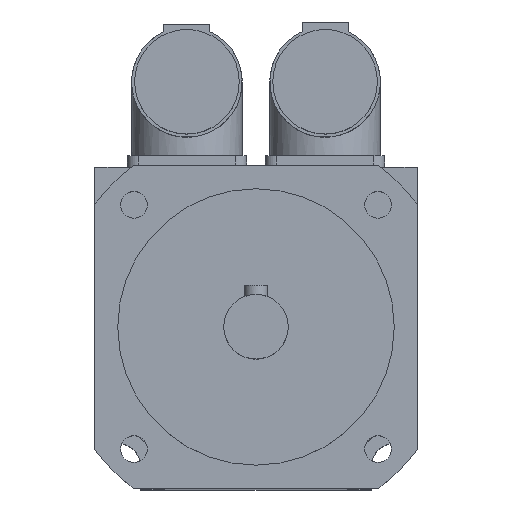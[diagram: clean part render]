
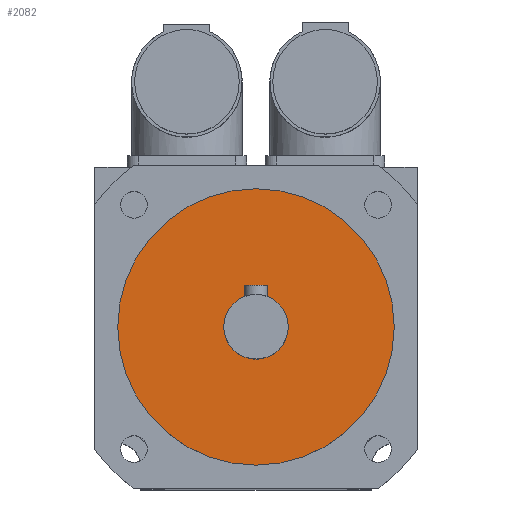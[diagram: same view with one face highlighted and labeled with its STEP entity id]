
A CAD part, top view. The second image highlights one B-rep face of the part: STEP entity #2082.
In plain terms, the highlighted planar face has unit normal (0, 0, 1).
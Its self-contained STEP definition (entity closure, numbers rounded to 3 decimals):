
#36=FACE_BOUND('',#359,.T.);
#61=CIRCLE('',#2206,7.);
#62=CIRCLE('',#2209,30.);
#234=FACE_OUTER_BOUND('',#358,.T.);
#358=EDGE_LOOP('',(#1420));
#359=EDGE_LOOP('',(#1421));
#878=VERTEX_POINT('',#3179);
#879=VERTEX_POINT('',#3183);
#1092=EDGE_CURVE('',#878,#878,#61,.T.);
#1093=EDGE_CURVE('',#879,#879,#62,.T.);
#1420=ORIENTED_EDGE('',*,*,#1093,.T.);
#1421=ORIENTED_EDGE('',*,*,#1092,.T.);
#2019=PLANE('',#2211);
#2082=ADVANCED_FACE('',(#234,#36),#2019,.T.);
#2206=AXIS2_PLACEMENT_3D('',#3180,#2468,#2469);
#2209=AXIS2_PLACEMENT_3D('',#3184,#2474,#2475);
#2211=AXIS2_PLACEMENT_3D('',#3187,#2478,#2479);
#2468=DIRECTION('center_axis',(0.,0.,-1.));
#2469=DIRECTION('ref_axis',(-1.,0.,0.));
#2474=DIRECTION('center_axis',(0.,0.,1.));
#2475=DIRECTION('ref_axis',(-1.,0.,0.));
#2478=DIRECTION('center_axis',(0.,0.,1.));
#2479=DIRECTION('ref_axis',(1.,0.,0.));
#3179=CARTESIAN_POINT('',(7.,0.,194.));
#3180=CARTESIAN_POINT('Origin',(0.,0.,194.));
#3183=CARTESIAN_POINT('',(30.,0.,194.));
#3184=CARTESIAN_POINT('Origin',(0.,0.,194.));
#3187=CARTESIAN_POINT('Origin',(0.,0.,
194.));
